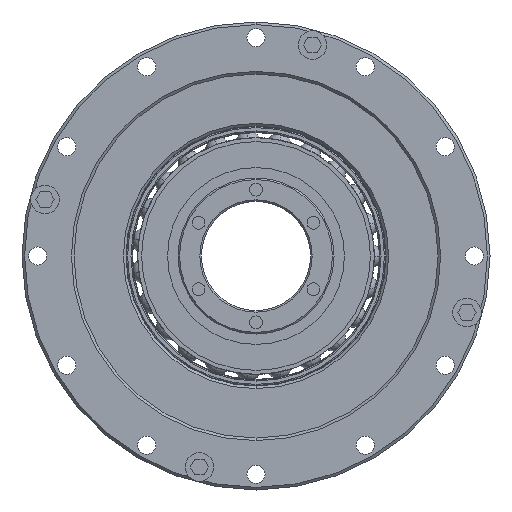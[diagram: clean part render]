
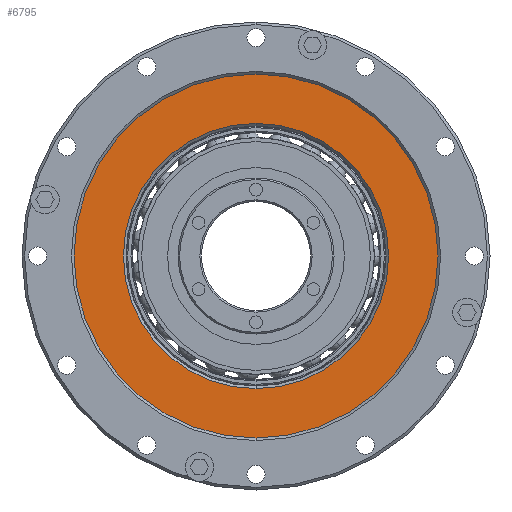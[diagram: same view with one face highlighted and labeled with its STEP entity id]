
A CAD part, left-side view. The second image highlights one B-rep face of the part: STEP entity #6795.
In plain terms, the highlighted planar face has unit normal (-1, 0, 0).
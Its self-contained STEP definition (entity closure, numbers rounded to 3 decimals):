
#2410=CARTESIAN_POINT('',(2.6,0.,0.));
#2411=DIRECTION('',(-1.,0.,0.));
#2412=DIRECTION('',(0.,0.,1.));
#2413=AXIS2_PLACEMENT_3D('',#2410,#2411,#2412);
#2418=CARTESIAN_POINT('',(2.6,0.,0.));
#2419=DIRECTION('',(-1.,0.,0.));
#2420=DIRECTION('',(0.,0.,-1.));
#2421=AXIS2_PLACEMENT_3D('',#2418,#2419,#2420);
#2426=CARTESIAN_POINT('',(2.6,0.,0.));
#2427=DIRECTION('',(1.,0.,0.));
#2428=DIRECTION('',(0.,0.,-1.));
#2429=AXIS2_PLACEMENT_3D('',#2426,#2427,#2428);
#2434=CARTESIAN_POINT('',(2.6,0.,0.));
#2435=DIRECTION('',(1.,0.,0.));
#2436=DIRECTION('',(0.,0.,1.));
#2437=AXIS2_PLACEMENT_3D('',#2434,#2435,#2436);
#4868=CARTESIAN_POINT('',(2.6,0.,35.));
#4870=VERTEX_POINT('',#4868);
#4872=CARTESIAN_POINT('',(2.6,0.,-35.));
#4874=VERTEX_POINT('',#4872);
#4884=CARTESIAN_POINT('',(2.6,0.,25.5));
#4885=VERTEX_POINT('',#4884);
#4886=CARTESIAN_POINT('',(2.6,0.,-25.5));
#4887=VERTEX_POINT('',#4886);
#6780=CARTESIAN_POINT('',(2.6,35.,0.));
#6781=DIRECTION('',(1.,0.,0.));
#6782=DIRECTION('',(0.,0.,-1.));
#6783=AXIS2_PLACEMENT_3D('',#6780,#6781,#6782);
#6784=PLANE('',#6783);
#6785=ORIENTED_EDGE('',*,*,#6774,.F.);
#6786=ORIENTED_EDGE('',*,*,#6760,.F.);
#6787=EDGE_LOOP('',(#6785,#6786));
#6788=FACE_OUTER_BOUND('',#6787,.F.);
#6790=ORIENTED_EDGE('',*,*,#6789,.F.);
#6792=ORIENTED_EDGE('',*,*,#6791,.F.);
#6793=EDGE_LOOP('',(#6790,#6792));
#6794=FACE_BOUND('',#6793,.F.);
#2414=CIRCLE('',#2413,35.);
#2422=CIRCLE('',#2421,35.);
#2430=CIRCLE('',#2429,25.5);
#2438=CIRCLE('',#2437,25.5);
#6760=EDGE_CURVE('',#4874,#4870,#2422,.T.);
#6774=EDGE_CURVE('',#4870,#4874,#2414,.T.);
#6789=EDGE_CURVE('',#4887,#4885,#2430,.T.);
#6791=EDGE_CURVE('',#4885,#4887,#2438,.T.);
#6795=ADVANCED_FACE('',(#6788,#6794),#6784,.F.);
